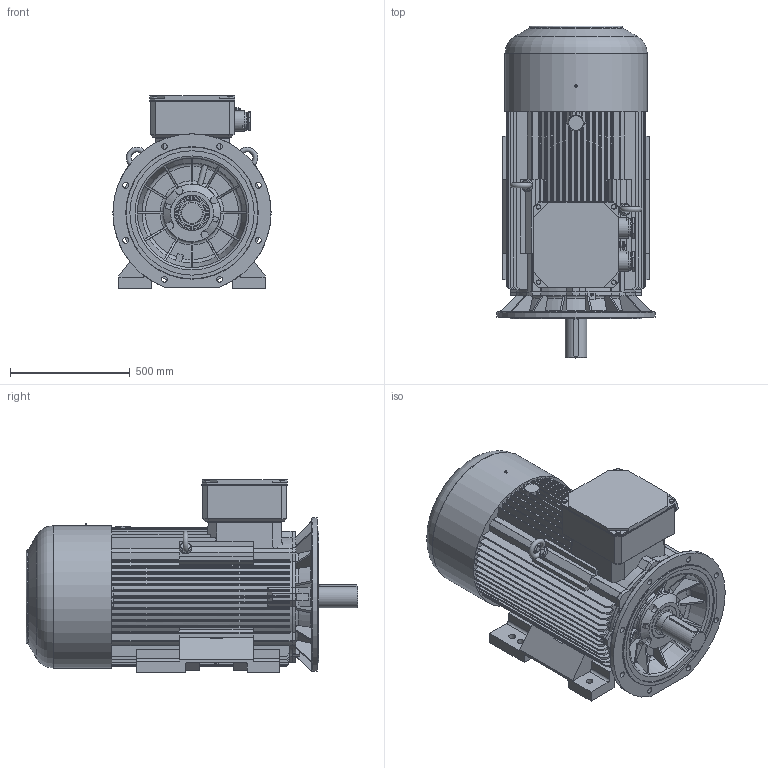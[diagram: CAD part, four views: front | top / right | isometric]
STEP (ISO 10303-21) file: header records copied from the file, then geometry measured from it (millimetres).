
FILE_DESCRIPTION(/* description */ ('Unknown'),/* implementation_level */ '2;1');
FILE_NAME(/* name */ '3SIEL315M8C_D',/* time_stamp */ '2021-04-12T14:00:36+02:00',/* author */ ('Unknown'),/* organization */ ('Unknown'),/* preprocessor_version */ 'ST-DEVELOPER v16.7',/* originating_system */ 'DEX',/* authorisation */ $);
FILE_SCHEMA (('AUTOMOTIVE_DESIGN {1 0 10303 214 3 1 1}'));
Length unit declared in the file: millimetre
Products named in the file (1): SIEL315M8C
Bounding box: 660 x 1385 x 804.5 mm (x, y, z)
Volume: 308266979 mm3; surface area: 7616380.3 mm2
Topology: 4 solids, 20 shells, 1435 faces, 3928 edges, 2590 vertices
Faces by surface type: plane 889, cylinder 300, cone 123, torus 107, bspline 16
Full cylindrical faces by diameter (mm): 1.6 x2, 5 x4, 10.106 x4, 12.894 x1, 13.835 x1, 16.63 x4, 19.978 x1, 24 x12, 26.234 x1, 26.969 x1, 28 x6, 50 x2, 55 x2, 57 x4, 65 x4, 70 x2, 71 x6, 72 x2, 72.752 x2, 76 x2, 85 x2, 89.999 x1, 95.181 x2, 99.4 x1, 100 x1, 111.399 x1, 112 x1, 119.4 x1, 119.999 x1, 131.399 x1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
Entity records: 48693 total; most frequent: CARTESIAN_POINT 13281, ORIENTED_EDGE 7412, DIRECTION 7100, EDGE_CURVE 3706, VERTEX_POINT 2516, AXIS2_PLACEMENT_3D 2439, LINE 2222, VECTOR 2222
